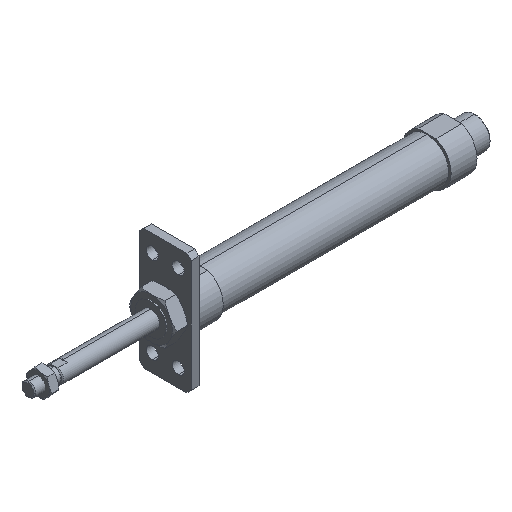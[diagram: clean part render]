
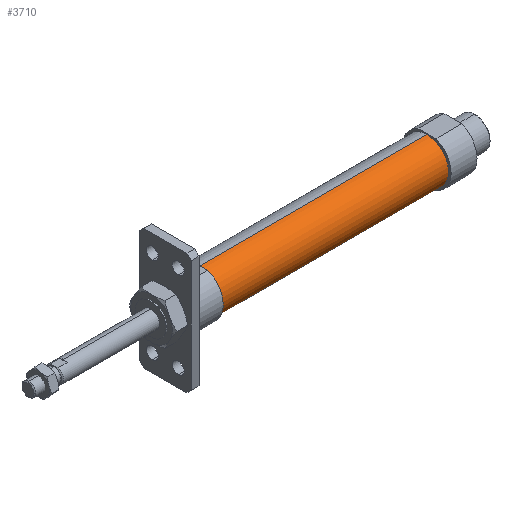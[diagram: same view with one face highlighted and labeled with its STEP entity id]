
A CAD part, isometric view. The second image highlights one B-rep face of the part: STEP entity #3710.
In plain terms, the highlighted cylindrical face has radius 12.5 mm (diameter 25 mm), a partial arc.
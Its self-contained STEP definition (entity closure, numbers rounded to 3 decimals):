
#37 = ORIENTED_EDGE ( 'NONE', *, *, #922, .F. ) ;
#81 = DIRECTION ( 'NONE',  ( -1., 0., 0. ) ) ;
#212 = DIRECTION ( 'NONE',  ( 0., 0., 1. ) ) ;
#274 = CYLINDRICAL_SURFACE ( 'NONE', #2631, 12.5 ) ;
#306 = VERTEX_POINT ( 'NONE', #1574 ) ;
#313 = VECTOR ( 'NONE', #2007, 1000. ) ;
#430 = EDGE_CURVE ( 'NONE', #2527, #3720, #3863, .T. ) ;
#547 = CARTESIAN_POINT ( 'NONE',  ( 231., 0., -12.5 ) ) ;
#703 = EDGE_CURVE ( 'NONE', #2527, #1772, #2742, .T. ) ;
#922 = EDGE_CURVE ( 'NONE', #3720, #306, #2235, .T. ) ;
#984 = DIRECTION ( 'NONE',  ( -1., 0., 0. ) ) ;
#1259 = DIRECTION ( 'NONE',  ( -1., 0., 0. ) ) ;
#1454 = CARTESIAN_POINT ( 'NONE',  ( 99., 0., -12.5 ) ) ;
#1510 = FACE_OUTER_BOUND ( 'NONE', #3696, .T. ) ;
#1551 = DIRECTION ( 'NONE',  ( 0., 0., 1. ) ) ;
#1574 = CARTESIAN_POINT ( 'NONE',  ( 99., 0., 12.5 ) ) ;
#1748 = CARTESIAN_POINT ( 'NONE',  ( -6.469, 0., 0. ) ) ;
#1752 = CARTESIAN_POINT ( 'NONE',  ( -6.469, 0., 12.5 ) ) ;
#1772 = VERTEX_POINT ( 'NONE', #2403 ) ;
#2007 = DIRECTION ( 'NONE',  ( -1., 0., 0. ) ) ;
#2014 = DIRECTION ( 'NONE',  ( -1., 0., 0. ) ) ;
#2023 = ORIENTED_EDGE ( 'NONE', *, *, #3365, .T. ) ;
#2235 = CIRCLE ( 'NONE', #3213, 12.5 ) ;
#2403 = CARTESIAN_POINT ( 'NONE',  ( 231., 0., 12.5 ) ) ;
#2444 = CARTESIAN_POINT ( 'NONE',  ( 99., 0., 0. ) ) ;
#2527 = VERTEX_POINT ( 'NONE', #547 ) ;
#2589 = VECTOR ( 'NONE', #984, 1000. ) ;
#2631 = AXIS2_PLACEMENT_3D ( 'NONE', #1748, #81, #212 ) ;
#2662 = CARTESIAN_POINT ( 'NONE',  ( -6.469, 0., -12.5 ) ) ;
#2717 = DIRECTION ( 'NONE',  ( 0., 0., 1. ) ) ;
#2726 = ORIENTED_EDGE ( 'NONE', *, *, #430, .F. ) ;
#2742 = CIRCLE ( 'NONE', #3579, 12.5 ) ;
#3213 = AXIS2_PLACEMENT_3D ( 'NONE', #2444, #1259, #1551 ) ;
#3365 = EDGE_CURVE ( 'NONE', #1772, #306, #3478, .T. ) ;
#3452 = ORIENTED_EDGE ( 'NONE', *, *, #703, .T. ) ;
#3478 = LINE ( 'NONE', #1752, #313 ) ;
#3579 = AXIS2_PLACEMENT_3D ( 'NONE', #3797, #2014, #2717 ) ;
#3696 = EDGE_LOOP ( 'NONE', ( #2726, #3452, #2023, #37 ) ) ;
#3710 = ADVANCED_FACE ( 'NONE', ( #1510 ), #274, .T. ) ;
#3720 = VERTEX_POINT ( 'NONE', #1454 ) ;
#3797 = CARTESIAN_POINT ( 'NONE',  ( 231., 0., 0. ) ) ;
#3863 = LINE ( 'NONE', #2662, #2589 ) ;
